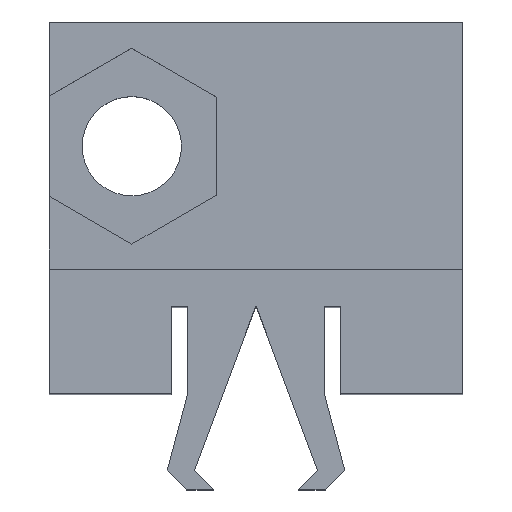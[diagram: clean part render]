
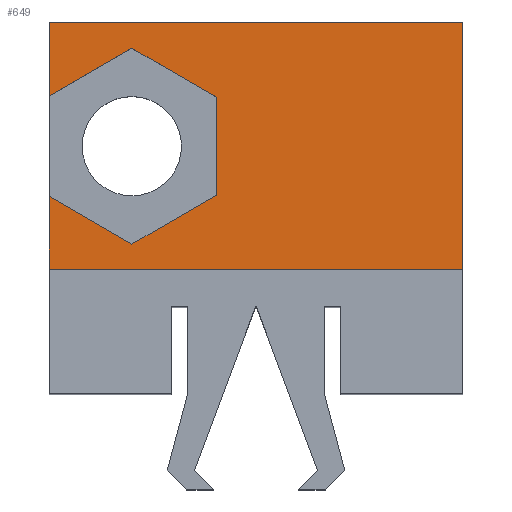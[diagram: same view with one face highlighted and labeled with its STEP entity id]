
A CAD part, top view. The second image highlights one B-rep face of the part: STEP entity #649.
In plain terms, the highlighted planar face has unit normal (0, 0, 1).
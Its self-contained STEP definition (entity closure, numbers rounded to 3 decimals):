
#26=FACE_OUTER_BOUND('',#60,.T.);
#60=EDGE_LOOP('',(#452,#453,#454,#455,#456,#457,#458,#459,#460,#461));
#91=LINE('',#885,#182);
#92=LINE('',#888,#183);
#96=LINE('',#897,#187);
#99=LINE('',#903,#190);
#102=LINE('',#908,#193);
#105=LINE('',#916,#196);
#106=LINE('',#918,#197);
#107=LINE('',#920,#198);
#108=LINE('',#922,#199);
#109=LINE('',#923,#200);
#182=VECTOR('',#720,10.);
#183=VECTOR('',#723,10.);
#187=VECTOR('',#729,10.);
#190=VECTOR('',#734,10.);
#193=VECTOR('',#739,10.);
#196=VECTOR('',#748,10.);
#197=VECTOR('',#749,10.);
#198=VECTOR('',#750,10.);
#199=VECTOR('',#751,10.);
#200=VECTOR('',#752,10.);
#271=VERTEX_POINT('',#879);
#273=VERTEX_POINT('',#883);
#274=VERTEX_POINT('',#887);
#276=VERTEX_POINT('',#893);
#278=VERTEX_POINT('',#896);
#280=VERTEX_POINT('',#902);
#283=VERTEX_POINT('',#915);
#284=VERTEX_POINT('',#917);
#285=VERTEX_POINT('',#919);
#286=VERTEX_POINT('',#921);
#335=EDGE_CURVE('',#271,#273,#91,.T.);
#336=EDGE_CURVE('',#273,#274,#92,.T.);
#340=EDGE_CURVE('',#278,#276,#96,.T.);
#343=EDGE_CURVE('',#280,#278,#99,.T.);
#346=EDGE_CURVE('',#274,#280,#102,.T.);
#350=EDGE_CURVE('',#276,#283,#105,.T.);
#351=EDGE_CURVE('',#284,#283,#106,.T.);
#352=EDGE_CURVE('',#285,#284,#107,.T.);
#353=EDGE_CURVE('',#286,#285,#108,.T.);
#354=EDGE_CURVE('',#286,#271,#109,.T.);
#452=ORIENTED_EDGE('',*,*,#335,.T.);
#453=ORIENTED_EDGE('',*,*,#336,.T.);
#454=ORIENTED_EDGE('',*,*,#346,.T.);
#455=ORIENTED_EDGE('',*,*,#343,.T.);
#456=ORIENTED_EDGE('',*,*,#340,.T.);
#457=ORIENTED_EDGE('',*,*,#350,.T.);
#458=ORIENTED_EDGE('',*,*,#351,.F.);
#459=ORIENTED_EDGE('',*,*,#352,.F.);
#460=ORIENTED_EDGE('',*,*,#353,.F.);
#461=ORIENTED_EDGE('',*,*,#354,.T.);
#617=PLANE('',#685);
#649=ADVANCED_FACE('',(#26),#617,.F.);
#685=AXIS2_PLACEMENT_3D('',#914,#746,#747);
#720=DIRECTION('',(0.866,0.5,0.));
#723=DIRECTION('',(0.866,-0.5,0.));
#729=DIRECTION('',(-0.866,0.5,0.));
#734=DIRECTION('',(-0.866,-0.5,0.));
#739=DIRECTION('',(0.,-1.,0.));
#746=DIRECTION('center_axis',(0.,0.,-1.));
#747=DIRECTION('ref_axis',(0.,1.,0.));
#748=DIRECTION('',(0.,-1.,0.));
#749=DIRECTION('',(-1.,0.,0.));
#750=DIRECTION('',(0.,-1.,0.));
#751=DIRECTION('',(1.,0.,0.));
#752=DIRECTION('',(0.,-1.,0.));
#879=CARTESIAN_POINT('',(-5.,7.212,2.5));
#883=CARTESIAN_POINT('',(-3.,8.367,2.5));
#885=CARTESIAN_POINT('',(-3.413,8.129,2.5));
#887=CARTESIAN_POINT('',(-0.95,7.184,2.5));
#888=CARTESIAN_POINT('',(-1.362,7.422,2.5));
#893=CARTESIAN_POINT('',(-5.,4.788,2.5));
#896=CARTESIAN_POINT('',(-3.,3.633,2.5));
#897=CARTESIAN_POINT('',(-2.387,3.279,2.5));
#902=CARTESIAN_POINT('',(-0.95,4.816,2.5));
#903=CARTESIAN_POINT('',(-0.338,5.17,2.5));
#908=CARTESIAN_POINT('',(-0.95,6.592,2.5));
#914=CARTESIAN_POINT('Origin',(0.,6.,2.5));
#915=CARTESIAN_POINT('',(-5.,3.,2.5));
#916=CARTESIAN_POINT('',(-5.,6.,2.5));
#917=CARTESIAN_POINT('',(5.,3.,2.5));
#918=CARTESIAN_POINT('',(1.125,3.,2.5));
#919=CARTESIAN_POINT('',(5.,9.,2.5));
#920=CARTESIAN_POINT('',(5.,6.,2.5));
#921=CARTESIAN_POINT('',(-5.,9.,2.5));
#922=CARTESIAN_POINT('',(0.,9.,2.5));
#923=CARTESIAN_POINT('',(-5.,6.,2.5));
